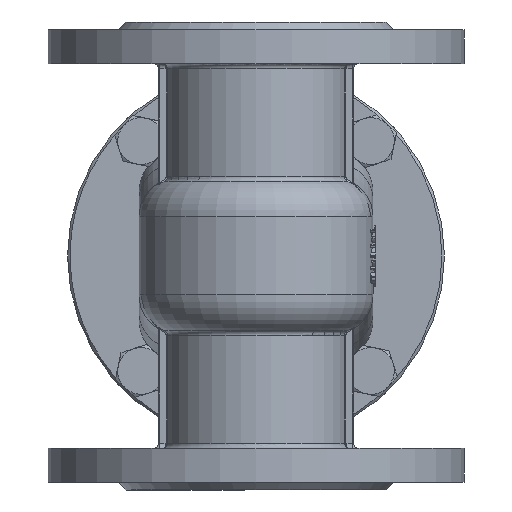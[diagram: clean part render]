
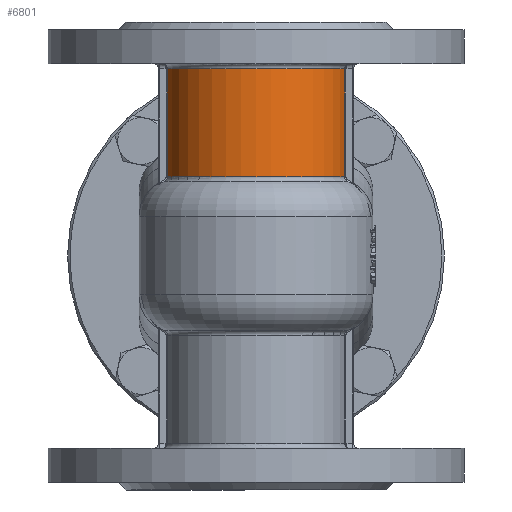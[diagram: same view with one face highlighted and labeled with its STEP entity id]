
A CAD part, front view. The second image highlights one B-rep face of the part: STEP entity #6801.
In plain terms, the highlighted cylindrical face has radius 35 mm (diameter 70 mm), a partial arc.
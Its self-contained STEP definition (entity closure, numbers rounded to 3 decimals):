
#6801=ADVANCED_FACE('',(#14912),#14914,.T.);
#14912=FACE_BOUND('',#14913,.T.);
#14913=EDGE_LOOP('',(#21595,#21596,#21597,#21598));
#14914=CYLINDRICAL_SURFACE('',#14915,35.);
#14915=AXIS2_PLACEMENT_3D('',#14916,#14917,#14918);
#14916=CARTESIAN_POINT('',(0.,0.,74.));
#14917=DIRECTION('',(0.,0.,1.));
#14918=DIRECTION('',(1.,0.,0.));
#21595=ORIENTED_EDGE('',*,*,#23912,.F.);
#21596=ORIENTED_EDGE('',*,*,#23913,.T.);
#21597=ORIENTED_EDGE('',*,*,#23743,.T.);
#21598=ORIENTED_EDGE('',*,*,#23914,.T.);
#23743=EDGE_CURVE('',#26905,#26907,#26909,.T.);
#23912=EDGE_CURVE('',#27170,#27171,#27172,.T.);
#23913=EDGE_CURVE('',#27170,#26905,#27173,.T.);
#23914=EDGE_CURVE('',#26907,#27171,#27174,.T.);
#26905=VERTEX_POINT('',#44760);
#26907=VERTEX_POINT('',#44777);
#26909=CIRCLE('',#44794,35.);
#27170=VERTEX_POINT('',#46307);
#27171=VERTEX_POINT('',#46308);
#27172=CIRCLE('',#46309,35.);
#27173=LINE('',#46313,#46314);
#27174=LINE('',#46316,#46317);
#44760=CARTESIAN_POINT('',(-34.1,-7.887,30.492));
#44777=CARTESIAN_POINT('',(34.1,-7.887,30.492));
#44794=AXIS2_PLACEMENT_3D('',#44795,#44796,#44797);
#44795=CARTESIAN_POINT('',(0.,0.,30.492));
#44796=DIRECTION('',(0.,0.,1.));
#44797=DIRECTION('',(-0.974,-0.225,0.));
#46307=CARTESIAN_POINT('',(-34.1,-7.887,72.));
#46308=CARTESIAN_POINT('',(34.1,-7.887,72.));
#46309=AXIS2_PLACEMENT_3D('',#46310,#46311,#46312);
#46310=CARTESIAN_POINT('',(0.,0.,72.));
#46311=DIRECTION('',(0.,0.,1.));
#46312=DIRECTION('',(-0.974,-0.225,0.));
#46313=CARTESIAN_POINT('',(-34.1,-7.887,72.));
#46314=VECTOR('',#46315,1.);
#46315=DIRECTION('',(0.,0.,-1.));
#46316=CARTESIAN_POINT('',(34.1,-7.887,30.492));
#46317=VECTOR('',#46318,1.);
#46318=DIRECTION('',(0.,0.,1.));
